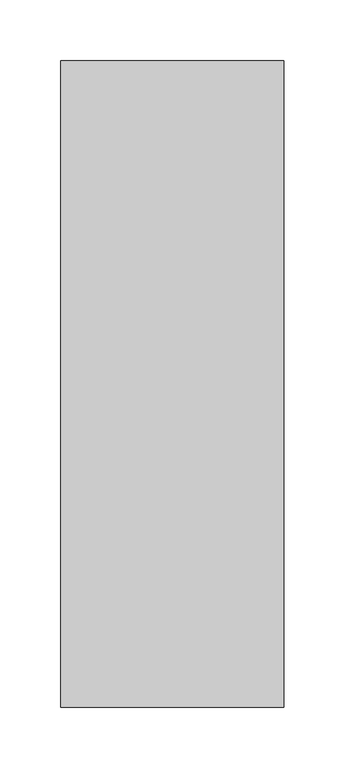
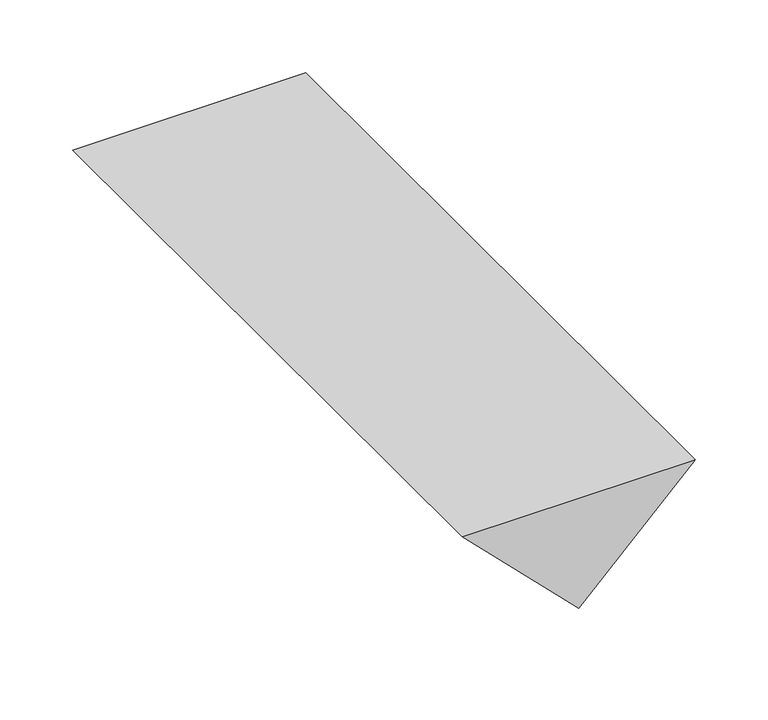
"""IFC4 building model written with IfcOpenShell, lengths in millimetres: proxy geometry, AERO^OFFICE 3_6x48 LIFT SHROUDS-LEFT UNIT PARTS SOLID."""

from ifc_helpers import new_model, si_unit, frame, origin, place, context, project, spatial, polyline, outline, extrude, source, transform, mapped, element, save


def generic_models_59e38448(model_context):
    return source(origin(), model_context, "Body", "SweptSolid", [
        extrude(outline(polyline([(0.0, 0.0), (-92.075, 92.075), (0.0, 184.15), (0.0, 0.0)])), frame((0.0, 0.0, 0.0), z_axis=(0.0, 1.0, 0.0), x_axis=(0.0, 0.0, 1.0)), (0.0, 0.0, 1.0), 533.4),
    ])


if __name__ == "__main__":
    model = new_model("IFC4")
    model_context = context("Model", 3, world=origin())
    ifc_project = project(units=[si_unit("LENGTHUNIT", "METRE", prefix="MILLI")], contexts=[model_context])
    site = spatial("IfcSite", under=ifc_project)
    building = spatial("IfcBuilding", under=site)
    placement = place(None, origin())
    generic_models_shape = generic_models_59e38448(model_context)
    element("IfcBuildingElementProxy", 1, Name="AERO^OFFICE 3_6x48 LIFT SHROUDS-LEFT UNIT PARTS SOLID", ObjectType="AERO^OFFICE 3_6x48 LIFT SHROUDS-LEFT UNIT PARTS SOLID", at=placement, inside=building, context=model_context, shape_type="MappedRepresentation", body=[
        mapped(generic_models_shape, transform((0.0, 0.0, 0.0), x_axis=(1.0, 0.0, 0.0), y_axis=(0.0, 1.0, 0.0), z_axis=(0.0, 0.0, 1.0))),
    ])
    save(model, "model.ifc")
